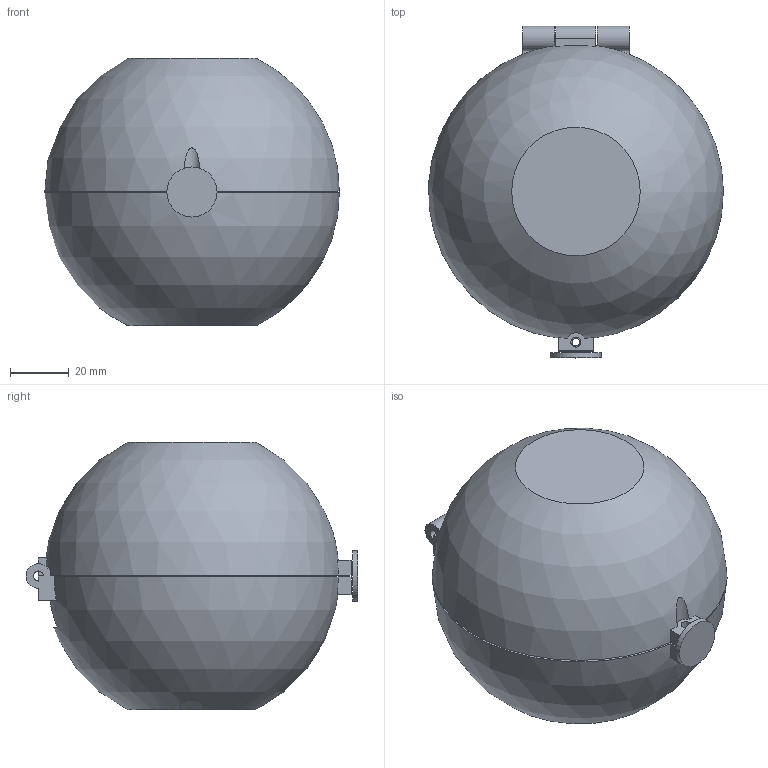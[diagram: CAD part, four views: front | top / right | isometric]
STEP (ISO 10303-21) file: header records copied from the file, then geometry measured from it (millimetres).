
FILE_DESCRIPTION(('Open CASCADE Model'),'2;1');
FILE_NAME('Open CASCADE Shape Model','2026-09-16T15:55:11',('Author'),( 'Open CASCADE'),'Open CASCADE STEP processor 7.9','Open CASCADE 7.9' ,'Unknown');
FILE_SCHEMA(('AUTOMOTIVE_DESIGN { 1 0 10303 214 1 1 1 1 }'));
Length unit declared in the file: millimetre
Products named in the file (11): Pocket_Pet_V1; 01_lower_shell; 02_lid; 03_control_deck; 04_board_carrier; 05_button_left; 06_button_ok; 07_button_right; 08_switch_tray; 09_battery_tray; 10_front_emblem
Assembly tree (10 placements, depth 2):
  Pocket_Pet_V1
    01_lower_shell
    02_lid
    03_control_deck
    04_board_carrier
    05_button_left
    06_button_ok
    07_button_right
    08_switch_tray
    09_battery_tray
    10_front_emblem
Bounding box: 99.96 x 112.55 x 90.6 mm (x, y, z)
Volume: 105753.5 mm3; surface area: 94046.1 mm2
Topology: 10 solids, 10 shells, 340 faces, 844 edges, 562 vertices
Faces by surface type: plane 244, cylinder 91, sphere 5
Full cylindrical faces by diameter (mm): 2.1 x6, 2.3 x4, 2.5 x12, 2.6 x1, 3 x1, 3.2 x6, 3.4 x4, 6 x6, 6.6 x4, 8 x6, 9.5 x3, 10 x3, 11.2 x3, 17 x1
Entity records: 25135 total; most frequent: CARTESIAN_POINT 8085, DIRECTION 3045, LINE 1691, VECTOR 1691, ORIENTED_EDGE 1688, PCURVE 1688, DEFINITIONAL_REPRESENTATION 1688, EDGE_CURVE 844
